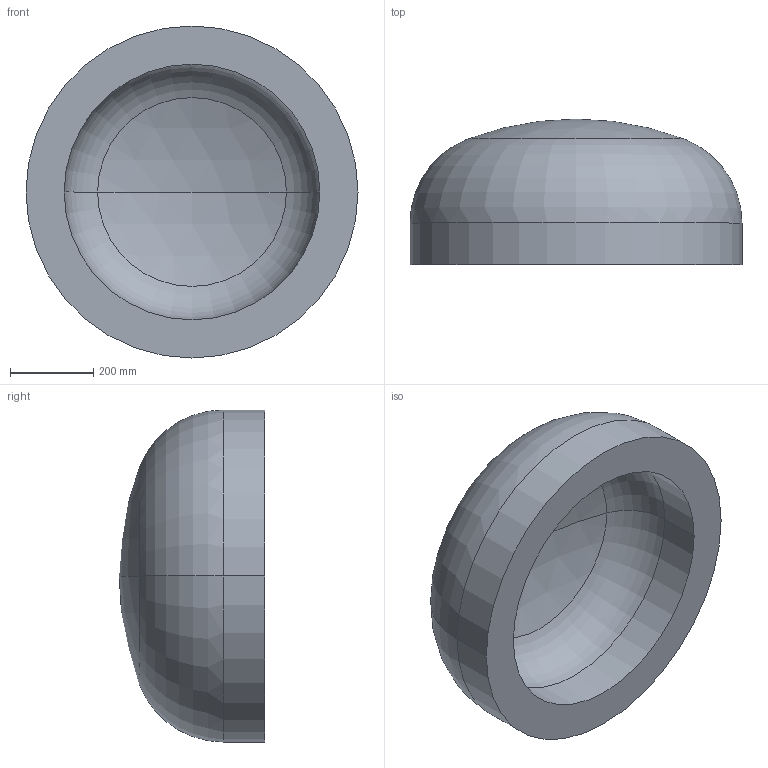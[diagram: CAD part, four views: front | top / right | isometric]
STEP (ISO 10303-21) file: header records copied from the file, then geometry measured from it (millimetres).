
FILE_DESCRIPTION (( 'STEP AP203' ), '1' );
FILE_NAME ('DIN 28013 Korbbogenform_-_Boden DIN 28013 - 800 x 100 - I - s=92.step', '2016-07-01T08:21:59', ( '' ), ( '' ), 'SwSTEP 2.0', 'SolidWorks 2013', '' );
FILE_SCHEMA (( 'CONFIG_CONTROL_DESIGN' ));
Length unit declared in the file: millimetre
Products named in the file (1): DIN 28013 Korbbogenform_-_Boden DIN 28013 - 800 x 100 - I - s=92
Bounding box: 800 x 350.61 x 800 mm (x, y, z)
Volume: 76266739.5 mm3; surface area: 1880330.1 mm2
Topology: 1 solids, 1 shells, 13 faces, 24 edges, 14 vertices
Faces by surface type: torus 4, cylinder 4, sphere 4, plane 1
Entity records: 407 total; most frequent: DIRECTION 72, CARTESIAN_POINT 52, ORIENTED_EDGE 48, AXIS2_PLACEMENT_3D 34, EDGE_CURVE 24, CIRCLE 20, EDGE_LOOP 14, VERTEX_POINT 14
